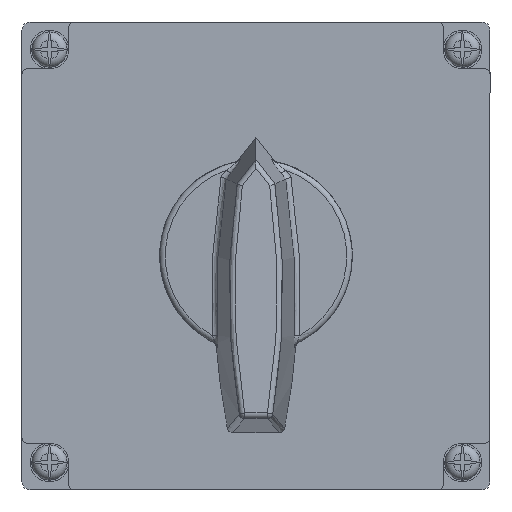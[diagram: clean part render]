
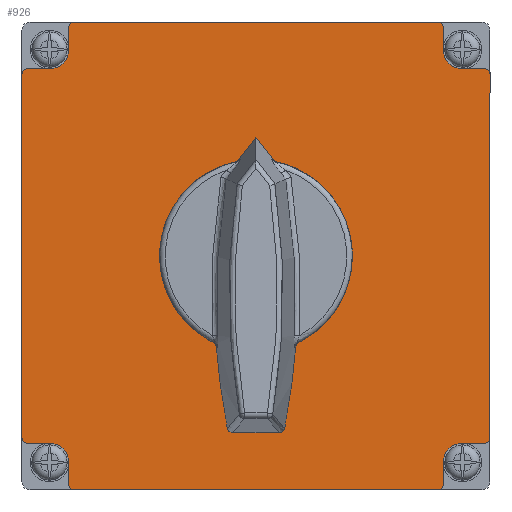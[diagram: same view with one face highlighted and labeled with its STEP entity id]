
A CAD part, front view. The second image highlights one B-rep face of the part: STEP entity #926.
In plain terms, the highlighted planar face has unit normal (0, -1, 0).
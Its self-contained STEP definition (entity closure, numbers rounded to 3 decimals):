
#357=LINE('',#5583,#542);
#360=LINE('',#5591,#545);
#367=LINE('',#5616,#552);
#371=LINE('',#5626,#556);
#383=LINE('',#5667,#568);
#385=LINE('',#5673,#570);
#393=LINE('',#5700,#578);
#396=LINE('',#5708,#581);
#402=LINE('',#5731,#587);
#403=LINE('',#5732,#588);
#404=LINE('',#5733,#589);
#405=LINE('',#5734,#590);
#542=VECTOR('',#4117,1.);
#545=VECTOR('',#4126,1.);
#552=VECTOR('',#4149,1.);
#556=VECTOR('',#4159,1.);
#568=VECTOR('',#4199,1.);
#570=VECTOR('',#4207,1.);
#578=VECTOR('',#4231,1.);
#581=VECTOR('',#4240,1.);
#587=VECTOR('',#4262,1.);
#588=VECTOR('',#4263,1.);
#589=VECTOR('',#4264,1.);
#590=VECTOR('',#4265,1.);
#926=ADVANCED_FACE('',(#1255,#1256),#1122,.T.);
#1122=PLANE('',#3746);
#1255=FACE_BOUND('',#1374,.T.);
#1256=FACE_BOUND('',#1375,.T.);
#1374=EDGE_LOOP('',(#1771,#1772,#1773,#1774,#1775,#1776,#1777,#1778,#1779,
#1780,#1781,#1782,#1783,#1784,#1785,#1786,#1787,#1788,#1789,#1790,#1791,
#1792,#1793,#1794));
#1375=EDGE_LOOP('',(#1795));
#1771=ORIENTED_EDGE('',*,*,#3035,.F.);
#1772=ORIENTED_EDGE('',*,*,#3037,.F.);
#1773=ORIENTED_EDGE('',*,*,#3103,.T.);
#1774=ORIENTED_EDGE('',*,*,#3085,.F.);
#1775=ORIENTED_EDGE('',*,*,#3088,.F.);
#1776=ORIENTED_EDGE('',*,*,#3090,.F.);
#1777=ORIENTED_EDGE('',*,*,#3092,.F.);
#1778=ORIENTED_EDGE('',*,*,#3094,.F.);
#1779=ORIENTED_EDGE('',*,*,#3104,.T.);
#1780=ORIENTED_EDGE('',*,*,#3055,.F.);
#1781=ORIENTED_EDGE('',*,*,#3047,.F.);
#1782=ORIENTED_EDGE('',*,*,#3050,.F.);
#1783=ORIENTED_EDGE('',*,*,#3052,.F.);
#1784=ORIENTED_EDGE('',*,*,#3054,.F.);
#1785=ORIENTED_EDGE('',*,*,#3105,.T.);
#1786=ORIENTED_EDGE('',*,*,#3069,.F.);
#1787=ORIENTED_EDGE('',*,*,#3072,.F.);
#1788=ORIENTED_EDGE('',*,*,#3074,.F.);
#1789=ORIENTED_EDGE('',*,*,#3075,.F.);
#1790=ORIENTED_EDGE('',*,*,#3066,.F.);
#1791=ORIENTED_EDGE('',*,*,#3106,.T.);
#1792=ORIENTED_EDGE('',*,*,#3028,.F.);
#1793=ORIENTED_EDGE('',*,*,#3031,.F.);
#1794=ORIENTED_EDGE('',*,*,#3033,.F.);
#1795=ORIENTED_EDGE('',*,*,#3107,.F.);
#2679=VERTEX_POINT('',#5576);
#2680=VERTEX_POINT('',#5578);
#2681=VERTEX_POINT('',#5582);
#2682=VERTEX_POINT('',#5586);
#2683=VERTEX_POINT('',#5590);
#2684=VERTEX_POINT('',#5594);
#2693=VERTEX_POINT('',#5615);
#2694=VERTEX_POINT('',#5617);
#2695=VERTEX_POINT('',#5621);
#2696=VERTEX_POINT('',#5625);
#2697=VERTEX_POINT('',#5629);
#2698=VERTEX_POINT('',#5633);
#2707=VERTEX_POINT('',#5654);
#2708=VERTEX_POINT('',#5656);
#2709=VERTEX_POINT('',#5660);
#2710=VERTEX_POINT('',#5662);
#2711=VERTEX_POINT('',#5666);
#2712=VERTEX_POINT('',#5670);
#2721=VERTEX_POINT('',#5693);
#2722=VERTEX_POINT('',#5695);
#2723=VERTEX_POINT('',#5699);
#2724=VERTEX_POINT('',#5703);
#2725=VERTEX_POINT('',#5707);
#2726=VERTEX_POINT('',#5711);
#2735=VERTEX_POINT('',#5736);
#3028=EDGE_CURVE('',#2679,#2680,#3515,.T.);
#3031=EDGE_CURVE('',#2681,#2679,#357,.T.);
#3033=EDGE_CURVE('',#2682,#2681,#3516,.T.);
#3035=EDGE_CURVE('',#2683,#2682,#360,.T.);
#3037=EDGE_CURVE('',#2684,#2683,#3517,.T.);
#3047=EDGE_CURVE('',#2693,#2694,#367,.T.);
#3050=EDGE_CURVE('',#2695,#2693,#3522,.T.);
#3052=EDGE_CURVE('',#2696,#2695,#371,.T.);
#3054=EDGE_CURVE('',#2697,#2696,#3523,.T.);
#3055=EDGE_CURVE('',#2694,#2698,#3524,.T.);
#3066=EDGE_CURVE('',#2707,#2708,#3529,.T.);
#3069=EDGE_CURVE('',#2709,#2710,#3530,.T.);
#3072=EDGE_CURVE('',#2711,#2709,#383,.T.);
#3074=EDGE_CURVE('',#2712,#2711,#3531,.T.);
#3075=EDGE_CURVE('',#2708,#2712,#385,.T.);
#3085=EDGE_CURVE('',#2721,#2722,#3536,.T.);
#3088=EDGE_CURVE('',#2723,#2721,#393,.T.);
#3090=EDGE_CURVE('',#2724,#2723,#3537,.T.);
#3092=EDGE_CURVE('',#2725,#2724,#396,.T.);
#3094=EDGE_CURVE('',#2726,#2725,#3538,.T.);
#3103=EDGE_CURVE('',#2684,#2722,#402,.T.);
#3104=EDGE_CURVE('',#2726,#2698,#403,.T.);
#3105=EDGE_CURVE('',#2697,#2710,#404,.T.);
#3106=EDGE_CURVE('',#2707,#2680,#405,.T.);
#3107=EDGE_CURVE('',#2735,#2735,#3543,.T.);
#3515=CIRCLE('',#3693,1.);
#3516=CIRCLE('',#3696,3.5);
#3517=CIRCLE('',#3699,1.);
#3522=CIRCLE('',#3707,3.5);
#3523=CIRCLE('',#3710,1.);
#3524=CIRCLE('',#3712,1.);
#3529=CIRCLE('',#3719,1.);
#3530=CIRCLE('',#3721,1.);
#3531=CIRCLE('',#3724,3.5);
#3536=CIRCLE('',#3732,1.);
#3537=CIRCLE('',#3735,3.5);
#3538=CIRCLE('',#3738,1.);
#3543=CIRCLE('',#3745,17.5);
#3693=AXIS2_PLACEMENT_3D('',#5577,#4111,#4112);
#3696=AXIS2_PLACEMENT_3D('',#5587,#4121,#4122);
#3699=AXIS2_PLACEMENT_3D('',#5595,#4130,#4131);
#3707=AXIS2_PLACEMENT_3D('',#5622,#4154,#4155);
#3710=AXIS2_PLACEMENT_3D('',#5630,#4163,#4164);
#3712=AXIS2_PLACEMENT_3D('',#5632,#4167,#4168);
#3719=AXIS2_PLACEMENT_3D('',#5655,#4187,#4188);
#3721=AXIS2_PLACEMENT_3D('',#5661,#4193,#4194);
#3724=AXIS2_PLACEMENT_3D('',#5671,#4203,#4204);
#3732=AXIS2_PLACEMENT_3D('',#5694,#4225,#4226);
#3735=AXIS2_PLACEMENT_3D('',#5704,#4235,#4236);
#3738=AXIS2_PLACEMENT_3D('',#5712,#4244,#4245);
#3745=AXIS2_PLACEMENT_3D('',#5735,#4266,#4267);
#3746=AXIS2_PLACEMENT_3D('',#5737,#4268,#4269);
#4111=DIRECTION('',(0.,1.,0.));
#4112=DIRECTION('',(-1.,0.,0.));
#4117=DIRECTION('',(0.,0.,1.));
#4121=DIRECTION('',(0.,-1.,0.));
#4122=DIRECTION('',(-1.,0.,0.));
#4126=DIRECTION('',(1.,0.,0.));
#4130=DIRECTION('',(0.,1.,0.));
#4131=DIRECTION('',(-1.,0.,0.));
#4149=DIRECTION('',(0.,0.,-1.));
#4154=DIRECTION('',(0.,-1.,0.));
#4155=DIRECTION('',(-1.,0.,0.));
#4159=DIRECTION('',(-1.,0.,0.));
#4163=DIRECTION('',(0.,1.,0.));
#4164=DIRECTION('',(-1.,0.,0.));
#4167=DIRECTION('',(0.,1.,0.));
#4168=DIRECTION('',(-1.,0.,0.));
#4187=DIRECTION('',(0.,1.,0.));
#4188=DIRECTION('',(-1.,0.,0.));
#4193=DIRECTION('',(0.,1.,0.));
#4194=DIRECTION('',(-1.,0.,0.));
#4199=DIRECTION('',(1.,0.,0.));
#4203=DIRECTION('',(0.,-1.,0.));
#4204=DIRECTION('',(-1.,0.,0.));
#4207=DIRECTION('',(0.,0.,-1.));
#4225=DIRECTION('',(0.,1.,0.));
#4226=DIRECTION('',(-1.,0.,0.));
#4231=DIRECTION('',(-1.,0.,0.));
#4235=DIRECTION('',(0.,-1.,0.));
#4236=DIRECTION('',(-1.,0.,0.));
#4240=DIRECTION('',(0.,0.,1.));
#4244=DIRECTION('',(0.,1.,0.));
#4245=DIRECTION('',(-1.,0.,0.));
#4262=DIRECTION('',(0.,0.,-1.));
#4263=DIRECTION('',(1.,0.,0.));
#4264=DIRECTION('',(0.,0.,1.));
#4265=DIRECTION('',(-1.,0.,0.));
#4266=DIRECTION('',(0.,-1.,0.));
#4267=DIRECTION('',(1.,0.,0.));
#4268=DIRECTION('',(0.,-1.,0.));
#4269=DIRECTION('',(0.,0.,-1.));
#5576=CARTESIAN_POINT('',(-34.,0.,41.5));
#5577=CARTESIAN_POINT('',(-33.,0.,41.5));
#5578=CARTESIAN_POINT('',(-33.,0.,42.5));
#5582=CARTESIAN_POINT('',(-34.,0.,37.5));
#5583=CARTESIAN_POINT('',(-34.,0.,37.5));
#5586=CARTESIAN_POINT('',(-37.5,0.,34.));
#5587=CARTESIAN_POINT('',(-37.5,0.,37.5));
#5590=CARTESIAN_POINT('',(-41.5,0.,34.));
#5591=CARTESIAN_POINT('',(-41.5,0.,34.));
#5594=CARTESIAN_POINT('',(-42.5,0.,33.));
#5595=CARTESIAN_POINT('',(-41.5,0.,33.));
#5615=CARTESIAN_POINT('',(34.,0.,-37.5));
#5616=CARTESIAN_POINT('',(34.,0.,-37.5));
#5617=CARTESIAN_POINT('',(34.,0.,-41.5));
#5621=CARTESIAN_POINT('',(37.5,0.,-34.));
#5622=CARTESIAN_POINT('',(37.5,0.,-37.5));
#5625=CARTESIAN_POINT('',(41.5,0.,-34.));
#5626=CARTESIAN_POINT('',(41.5,0.,-34.));
#5629=CARTESIAN_POINT('',(42.5,0.,-33.));
#5630=CARTESIAN_POINT('',(41.5,0.,-33.));
#5632=CARTESIAN_POINT('',(33.,0.,-41.5));
#5633=CARTESIAN_POINT('',(33.,0.,-42.5));
#5654=CARTESIAN_POINT('',(33.,0.,42.5));
#5655=CARTESIAN_POINT('',(33.,0.,41.5));
#5656=CARTESIAN_POINT('',(34.,0.,41.5));
#5660=CARTESIAN_POINT('',(41.5,0.,34.));
#5661=CARTESIAN_POINT('',(41.5,0.,33.));
#5662=CARTESIAN_POINT('',(42.5,0.,33.));
#5666=CARTESIAN_POINT('',(37.5,0.,34.));
#5667=CARTESIAN_POINT('',(37.5,0.,34.));
#5670=CARTESIAN_POINT('',(34.,0.,37.5));
#5671=CARTESIAN_POINT('',(37.5,0.,37.5));
#5673=CARTESIAN_POINT('',(34.,0.,41.5));
#5693=CARTESIAN_POINT('',(-41.5,0.,-34.));
#5694=CARTESIAN_POINT('',(-41.5,0.,-33.));
#5695=CARTESIAN_POINT('',(-42.5,0.,-33.));
#5699=CARTESIAN_POINT('',(-37.5,0.,-34.));
#5700=CARTESIAN_POINT('',(-37.5,0.,-34.));
#5703=CARTESIAN_POINT('',(-34.,0.,-37.5));
#5704=CARTESIAN_POINT('',(-37.5,0.,-37.5));
#5707=CARTESIAN_POINT('',(-34.,0.,-41.5));
#5708=CARTESIAN_POINT('',(-34.,0.,-41.5));
#5711=CARTESIAN_POINT('',(-33.,0.,-42.5));
#5712=CARTESIAN_POINT('',(-33.,0.,-41.5));
#5731=CARTESIAN_POINT('',(-42.5,0.,41.));
#5732=CARTESIAN_POINT('',(-41.,0.,-42.5));
#5733=CARTESIAN_POINT('',(42.5,0.,-41.));
#5734=CARTESIAN_POINT('',(41.,0.,42.5));
#5735=CARTESIAN_POINT('',(0.,0.,0.));
#5736=CARTESIAN_POINT('',(17.5,0.,0.));
#5737=CARTESIAN_POINT('',(-41.,0.,41.));
